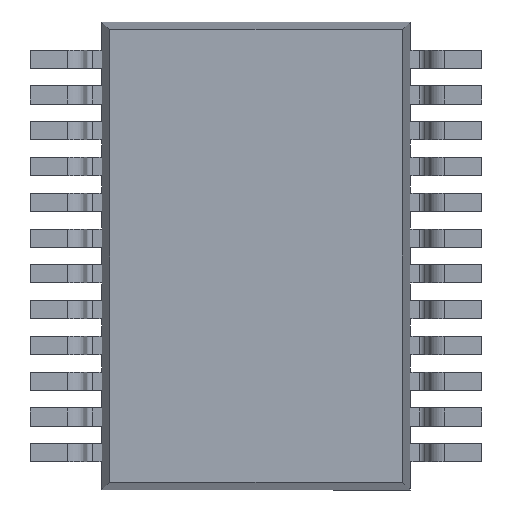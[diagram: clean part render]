
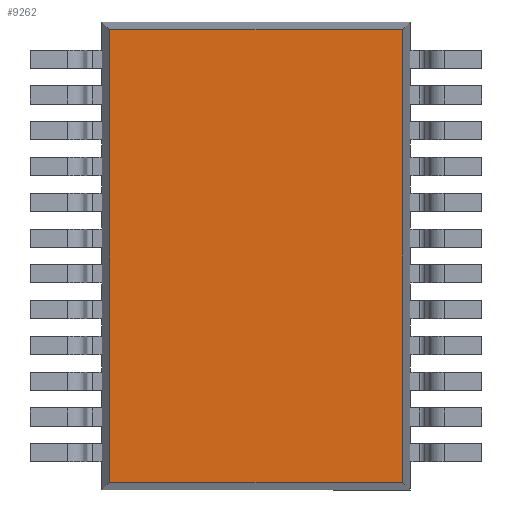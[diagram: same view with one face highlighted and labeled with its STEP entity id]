
A CAD part, front view. The second image highlights one B-rep face of the part: STEP entity #9262.
In plain terms, the highlighted planar face has unit normal (0, -1, 0).
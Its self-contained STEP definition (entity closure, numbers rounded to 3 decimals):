
#140 = DIRECTION ( 'NONE',  ( 0., 0., 1. ) ) ;
#141 = DIRECTION ( 'NONE',  ( 0., 1., 0. ) ) ;
#145 = PLANE ( 'NONE',  #2949 ) ;
#169 = CARTESIAN_POINT ( 'NONE',  ( 0., 0.05, 0. ) ) ;
#789 = CARTESIAN_POINT ( 'NONE',  ( -2.659, 0.05, -4.109 ) ) ;
#791 = CARTESIAN_POINT ( 'NONE',  ( -2.659, 0.05, 4.109 ) ) ;
#796 = CARTESIAN_POINT ( 'NONE',  ( 2.659, 0.05, 4.109 ) ) ;
#800 = CARTESIAN_POINT ( 'NONE',  ( 2.659, 0.05, -4.109 ) ) ;
#2597 = DIRECTION ( 'NONE',  ( 0., 0., 1. ) ) ;
#2598 = CARTESIAN_POINT ( 'NONE',  ( 2.659, 0.05, 4.25 ) ) ;
#2639 = EDGE_LOOP ( 'NONE', ( #5400, #5362, #5380, #5392 ) ) ;
#2949 = AXIS2_PLACEMENT_3D ( 'NONE', #169, #141, #140 ) ;
#4215 = LINE ( 'NONE', #9977, #4218 ) ;
#4218 = VECTOR ( 'NONE', #9975, 1000. ) ;
#4328 = LINE ( 'NONE', #11830, #4331 ) ;
#4330 = LINE ( 'NONE', #11827, #4333 ) ;
#4331 = VECTOR ( 'NONE', #11828, 1000. ) ;
#4333 = VECTOR ( 'NONE', #11826, 1000. ) ;
#4605 = LINE ( 'NONE', #2598, #4608 ) ;
#4608 = VECTOR ( 'NONE', #2597, 1000. ) ;
#5362 = ORIENTED_EDGE ( 'NONE', *, *, #12369, .T. ) ;
#5380 = ORIENTED_EDGE ( 'NONE', *, *, #12519, .T. ) ;
#5392 = ORIENTED_EDGE ( 'NONE', *, *, #12370, .T. ) ;
#5400 = ORIENTED_EDGE ( 'NONE', *, *, #12311, .T. ) ;
#7187 = VERTEX_POINT ( 'NONE', #789 ) ;
#7189 = VERTEX_POINT ( 'NONE', #791 ) ;
#7194 = VERTEX_POINT ( 'NONE', #796 ) ;
#7198 = VERTEX_POINT ( 'NONE', #800 ) ;
#9262 = ADVANCED_FACE ( 'NONE', ( #9702 ), #145, .F. ) ;
#9702 = FACE_OUTER_BOUND ( 'NONE', #2639, .T. ) ;
#9975 = DIRECTION ( 'NONE',  ( 0., 0., -1. ) ) ;
#9977 = CARTESIAN_POINT ( 'NONE',  ( -2.659, 0.05, 4.25 ) ) ;
#11826 = DIRECTION ( 'NONE',  ( -1., 0., 0. ) ) ;
#11827 = CARTESIAN_POINT ( 'NONE',  ( 2.8, 0.05, 4.109 ) ) ;
#11828 = DIRECTION ( 'NONE',  ( 1., 0., 0. ) ) ;
#11830 = CARTESIAN_POINT ( 'NONE',  ( 2.8, 0.05, -4.109 ) ) ;
#12311 = EDGE_CURVE ( 'NONE', #7189, #7187, #4215, .T. ) ;
#12369 = EDGE_CURVE ( 'NONE', #7187, #7198, #4328, .T. ) ;
#12370 = EDGE_CURVE ( 'NONE', #7194, #7189, #4330, .T. ) ;
#12519 = EDGE_CURVE ( 'NONE', #7198, #7194, #4605, .T. ) ;
